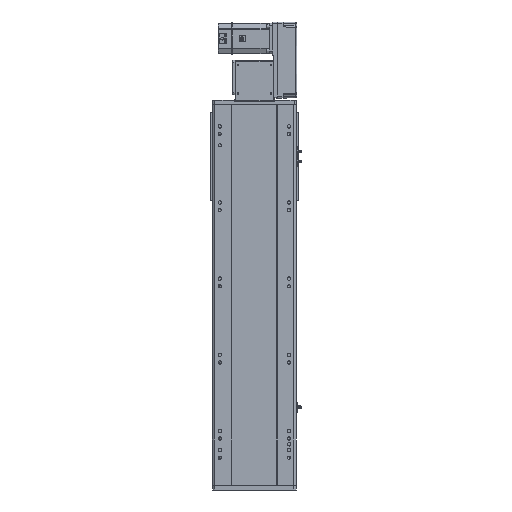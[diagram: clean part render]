
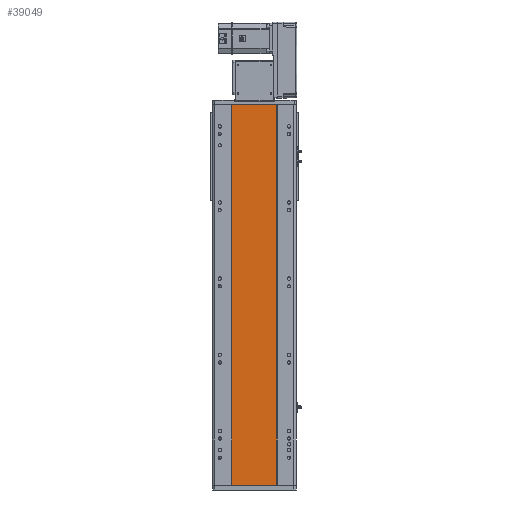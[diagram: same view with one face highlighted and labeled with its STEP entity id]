
A CAD part, front view. The second image highlights one B-rep face of the part: STEP entity #39049.
In plain terms, the highlighted planar face has unit normal (0, -1, 0).
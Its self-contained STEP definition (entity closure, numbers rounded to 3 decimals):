
#16 = CARTESIAN_POINT ( 'NONE',  ( 59., 1., 499.5 ) ) ;
#113 = DIRECTION ( 'NONE',  ( 1., 0., 0. ) ) ;
#1193 = DIRECTION ( 'NONE',  ( 1., 0., 0. ) ) ;
#3917 = VERTEX_POINT ( 'NONE', #29140 ) ;
#5573 = LINE ( 'NONE', #29507, #20109 ) ;
#6802 = CARTESIAN_POINT ( 'NONE',  ( 59., 1., -499.5 ) ) ;
#7074 = VERTEX_POINT ( 'NONE', #16 ) ;
#8535 = VECTOR ( 'NONE', #113, 1000. ) ;
#11484 = AXIS2_PLACEMENT_3D ( 'NONE', #42163, #41457, #37631 ) ;
#11778 = EDGE_CURVE ( 'NONE', #3917, #13797, #32818, .T. ) ;
#12970 = LINE ( 'NONE', #48636, #30560 ) ;
#13797 = VERTEX_POINT ( 'NONE', #49440 ) ;
#14150 = CARTESIAN_POINT ( 'NONE',  ( -59., 1., 499.5 ) ) ;
#14864 = DIRECTION ( 'NONE',  ( 0., 0., -1. ) ) ;
#14955 = EDGE_LOOP ( 'NONE', ( #29659, #32231, #38636, #51390 ) ) ;
#16829 = DIRECTION ( 'NONE',  ( 0., 0., -1. ) ) ;
#16928 = EDGE_CURVE ( 'NONE', #7074, #32233, #12970, .T. ) ;
#17967 = PLANE ( 'NONE',  #11484 ) ;
#20109 = VECTOR ( 'NONE', #1193, 1000. ) ;
#29140 = CARTESIAN_POINT ( 'NONE',  ( -59., 1., 499.5 ) ) ;
#29507 = CARTESIAN_POINT ( 'NONE',  ( -59., 1., 499.5 ) ) ;
#29659 = ORIENTED_EDGE ( 'NONE', *, *, #48477, .T. ) ;
#30560 = VECTOR ( 'NONE', #16829, 1000. ) ;
#32119 = CARTESIAN_POINT ( 'NONE',  ( -59., 1., -499.5 ) ) ;
#32154 = VECTOR ( 'NONE', #14864, 1000. ) ;
#32231 = ORIENTED_EDGE ( 'NONE', *, *, #16928, .F. ) ;
#32233 = VERTEX_POINT ( 'NONE', #6802 ) ;
#32818 = LINE ( 'NONE', #14150, #32154 ) ;
#37631 = DIRECTION ( 'NONE',  ( -1., 0., 0. ) ) ;
#38636 = ORIENTED_EDGE ( 'NONE', *, *, #42954, .F. ) ;
#39049 = ADVANCED_FACE ( 'NONE', ( #43980 ), #17967, .F. ) ;
#41457 = DIRECTION ( 'NONE',  ( 0., 1., 0. ) ) ;
#42163 = CARTESIAN_POINT ( 'NONE',  ( -59., 1., 499.5 ) ) ;
#42447 = LINE ( 'NONE', #32119, #8535 ) ;
#42954 = EDGE_CURVE ( 'NONE', #3917, #7074, #5573, .T. ) ;
#43980 = FACE_OUTER_BOUND ( 'NONE', #14955, .T. ) ;
#48477 = EDGE_CURVE ( 'NONE', #13797, #32233, #42447, .T. ) ;
#48636 = CARTESIAN_POINT ( 'NONE',  ( 59., 1., 499.5 ) ) ;
#49440 = CARTESIAN_POINT ( 'NONE',  ( -59., 1., -499.5 ) ) ;
#51390 = ORIENTED_EDGE ( 'NONE', *, *, #11778, .T. ) ;
